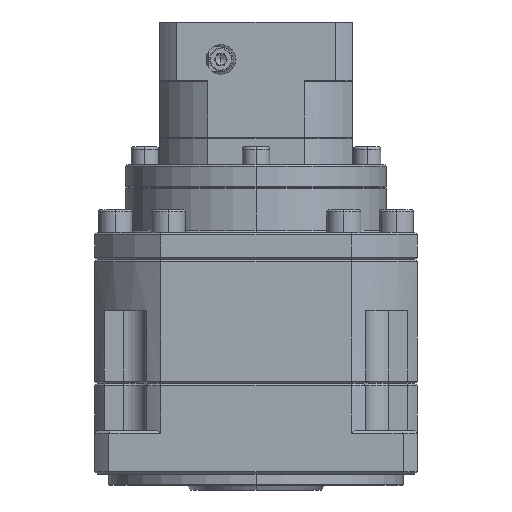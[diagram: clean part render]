
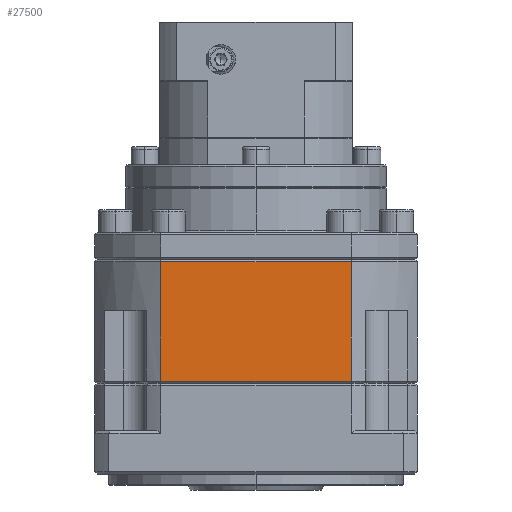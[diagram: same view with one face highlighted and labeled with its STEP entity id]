
A CAD part, left-side view. The second image highlights one B-rep face of the part: STEP entity #27500.
In plain terms, the highlighted planar face has unit normal (-1, 0, 0).
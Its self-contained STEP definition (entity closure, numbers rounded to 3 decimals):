
#6818 = CARTESIAN_POINT ( 'NONE',  ( -155.295, 75.301, -141.842 ) ) ;
#9082 = CARTESIAN_POINT ( 'NONE',  ( -155.295, 75.301, -89.342 ) ) ;
#9230 = EDGE_CURVE ( 'NONE', #104303, #97631, #78486, .T. ) ;
#19591 = EDGE_CURVE ( 'NONE', #104303, #102097, #110375, .T. ) ;
#20608 = DIRECTION ( 'NONE',  ( 0., 0., -1. ) ) ;
#26264 = CARTESIAN_POINT ( 'NONE',  ( -155.295, -8.728, -141.842 ) ) ;
#27500 = ADVANCED_FACE ( 'NONE', ( #91782 ), #109199, .F. ) ;
#28785 = EDGE_CURVE ( 'NONE', #64011, #97631, #58262, .T. ) ;
#30988 = VECTOR ( 'NONE', #118641, 1000. ) ;
#31946 = CARTESIAN_POINT ( 'NONE',  ( -155.295, -8.728, -89.342 ) ) ;
#34686 = VECTOR ( 'NONE', #20608, 1000. ) ;
#38259 = VECTOR ( 'NONE', #60260, 1000. ) ;
#46071 = CARTESIAN_POINT ( 'NONE',  ( -155.295, -37.714, -141.842 ) ) ;
#48493 = VECTOR ( 'NONE', #72645, 1000. ) ;
#49079 = ORIENTED_EDGE ( 'NONE', *, *, #28785, .T. ) ;
#52281 = ORIENTED_EDGE ( 'NONE', *, *, #114674, .F. ) ;
#58262 = LINE ( 'NONE', #90403, #30988 ) ;
#59077 = LINE ( 'NONE', #112274, #34686 ) ;
#60260 = DIRECTION ( 'NONE',  ( 0., 0., 1. ) ) ;
#64011 = VERTEX_POINT ( 'NONE', #31946 ) ;
#72645 = DIRECTION ( 'NONE',  ( 0., -1., 0. ) ) ;
#74239 = DIRECTION ( 'NONE',  ( 1., 0., 0. ) ) ;
#78486 = LINE ( 'NONE', #88388, #38259 ) ;
#88388 = CARTESIAN_POINT ( 'NONE',  ( -155.295, 75.301, 147.337 ) ) ;
#89264 = EDGE_LOOP ( 'NONE', ( #52281, #49079, #93557, #114013 ) ) ;
#90403 = CARTESIAN_POINT ( 'NONE',  ( -155.295, 75.301, -89.342 ) ) ;
#91782 = FACE_OUTER_BOUND ( 'NONE', #89264, .T. ) ;
#93557 = ORIENTED_EDGE ( 'NONE', *, *, #9230, .F. ) ;
#93824 = AXIS2_PLACEMENT_3D ( 'NONE', #118500, #74239, #95100 ) ;
#95100 = DIRECTION ( 'NONE',  ( 0., 0., -1. ) ) ;
#97631 = VERTEX_POINT ( 'NONE', #9082 ) ;
#102097 = VERTEX_POINT ( 'NONE', #26264 ) ;
#104303 = VERTEX_POINT ( 'NONE', #6818 ) ;
#109199 = PLANE ( 'NONE',  #93824 ) ;
#110375 = LINE ( 'NONE', #46071, #48493 ) ;
#112274 = CARTESIAN_POINT ( 'NONE',  ( -155.295, -8.728, 147.337 ) ) ;
#114013 = ORIENTED_EDGE ( 'NONE', *, *, #19591, .T. ) ;
#114674 = EDGE_CURVE ( 'NONE', #64011, #102097, #59077, .T. ) ;
#118500 = CARTESIAN_POINT ( 'NONE',  ( -155.295, -37.714, -88.342 ) ) ;
#118641 = DIRECTION ( 'NONE',  ( 0., 1., 0. ) ) ;
